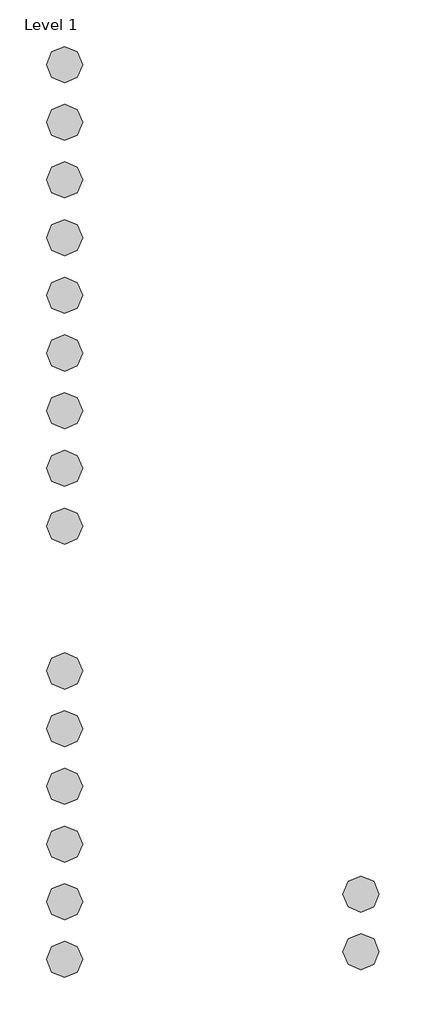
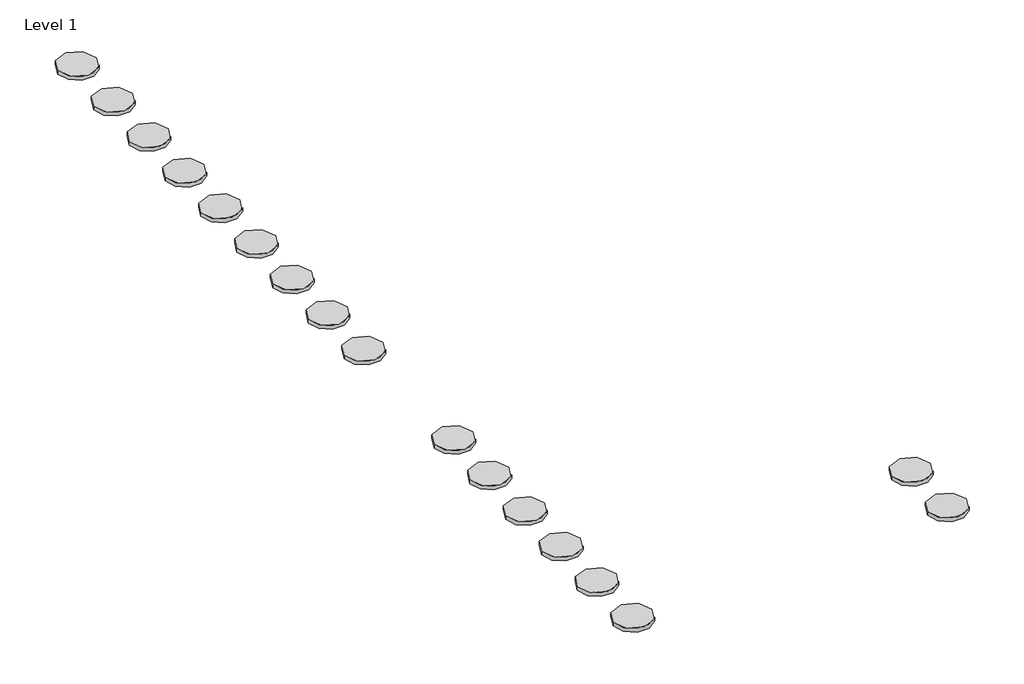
# One storey, incomplete: 17 proxies.
"""IFC4 building model written with IfcOpenShell, lengths in millimetres."""

from ifc_helpers import new_model, si_unit, origin, place, context, project, spatial, transform, mapped, element, save
from components import materialmodel_materialmodel_ac00f72a

model = new_model("IFC4")

# Units and contexts
model_context = context("Model", 3, world=origin())
ifc_project = project(units=[si_unit("LENGTHUNIT", "METRE", prefix="MILLI")], contexts=[model_context])

# Site, building, storey
site = spatial("IfcSite", under=ifc_project)
building = spatial("IfcBuilding", under=site)
storey = spatial("IfcBuildingStorey", under=building, Name="Level 1", Elevation=0.0)

# Proxies
placement = place(None, origin())
materialmodel_materialmodel_shape = materialmodel_materialmodel_ac00f72a(model_context)
element("IfcBuildingElementProxy", 1, Name="MaterialModel : MaterialModel", ObjectType="MaterialModel : MaterialModel", at=placement, inside=storey, context=model_context, shape_type="MappedRepresentation", body=[
    mapped(materialmodel_materialmodel_shape, transform((-8678.692475, 1792.2527312, 0.0), x_axis=(1.0, 0.0, 0.0), y_axis=(0.0, 1.0, 0.0), z_axis=(0.0, 0.0, 1.0))),
])
element("IfcBuildingElementProxy", 2, Name="MaterialModel : MaterialModel", ObjectType="MaterialModel : MaterialModel", at=placement, inside=storey, context=model_context, shape_type="MappedRepresentation", body=[
    mapped(materialmodel_materialmodel_shape, transform((-8678.692475, 1472.2527312, 0.0), x_axis=(1.0, 0.0, 0.0), y_axis=(0.0, 1.0, 0.0), z_axis=(0.0, 0.0, 1.0))),
])
element("IfcBuildingElementProxy", 3, Name="MaterialModel : MaterialModel", ObjectType="MaterialModel : MaterialModel", at=placement, inside=storey, context=model_context, shape_type="MappedRepresentation", body=[
    mapped(materialmodel_materialmodel_shape, transform((-10325.5786717, 6393.3237981, 0.0), x_axis=(1.0, 0.0, 0.0), y_axis=(0.0, 1.0, 0.0), z_axis=(0.0, 0.0, 1.0))),
])
element("IfcBuildingElementProxy", 4, Name="MaterialModel : MaterialModel", ObjectType="MaterialModel : MaterialModel", at=placement, inside=storey, context=model_context, shape_type="MappedRepresentation", body=[
    mapped(materialmodel_materialmodel_shape, transform((-10325.5786717, 6073.3237981, 0.0), x_axis=(1.0, 0.0, 0.0), y_axis=(0.0, 1.0, 0.0), z_axis=(0.0, 0.0, 1.0))),
])
element("IfcBuildingElementProxy", 5, Name="MaterialModel : MaterialModel", ObjectType="MaterialModel : MaterialModel", at=placement, inside=storey, context=model_context, shape_type="MappedRepresentation", body=[
    mapped(materialmodel_materialmodel_shape, transform((-10325.5786717, 5753.3237981, 0.0), x_axis=(1.0, 0.0, 0.0), y_axis=(0.0, 1.0, 0.0), z_axis=(0.0, 0.0, 1.0))),
])
element("IfcBuildingElementProxy", 6, Name="MaterialModel : MaterialModel", ObjectType="MaterialModel : MaterialModel", at=placement, inside=storey, context=model_context, shape_type="MappedRepresentation", body=[
    mapped(materialmodel_materialmodel_shape, transform((-10325.5786717, 5433.3237981, 0.0), x_axis=(1.0, 0.0, 0.0), y_axis=(0.0, 1.0, 0.0), z_axis=(0.0, 0.0, 1.0))),
])
element("IfcBuildingElementProxy", 7, Name="MaterialModel : MaterialModel", ObjectType="MaterialModel : MaterialModel", at=placement, inside=storey, context=model_context, shape_type="MappedRepresentation", body=[
    mapped(materialmodel_materialmodel_shape, transform((-10325.5786717, 5113.3237981, 0.0), x_axis=(1.0, 0.0, 0.0), y_axis=(0.0, 1.0, 0.0), z_axis=(0.0, 0.0, 1.0))),
])
element("IfcBuildingElementProxy", 8, Name="MaterialModel : MaterialModel", ObjectType="MaterialModel : MaterialModel", at=placement, inside=storey, context=model_context, shape_type="MappedRepresentation", body=[
    mapped(materialmodel_materialmodel_shape, transform((-10325.5786717, 4793.3237981, 0.0), x_axis=(1.0, 0.0, 0.0), y_axis=(0.0, 1.0, 0.0), z_axis=(0.0, 0.0, 1.0))),
])
element("IfcBuildingElementProxy", 9, Name="MaterialModel : MaterialModel", ObjectType="MaterialModel : MaterialModel", at=placement, inside=storey, context=model_context, shape_type="MappedRepresentation", body=[
    mapped(materialmodel_materialmodel_shape, transform((-10325.5786717, 2709.5894519, 0.0), x_axis=(1.0, 0.0, 0.0), y_axis=(0.0, 1.0, 0.0), z_axis=(0.0, 0.0, 1.0))),
])
element("IfcBuildingElementProxy", 10, Name="MaterialModel : MaterialModel", ObjectType="MaterialModel : MaterialModel", at=placement, inside=storey, context=model_context, shape_type="MappedRepresentation", body=[
    mapped(materialmodel_materialmodel_shape, transform((-10325.5786717, 2389.5894519, 0.0), x_axis=(1.0, 0.0, 0.0), y_axis=(0.0, 1.0, 0.0), z_axis=(0.0, 0.0, 1.0))),
])
element("IfcBuildingElementProxy", 11, Name="MaterialModel : MaterialModel", ObjectType="MaterialModel : MaterialModel", at=placement, inside=storey, context=model_context, shape_type="MappedRepresentation", body=[
    mapped(materialmodel_materialmodel_shape, transform((-10325.5786717, 1749.5894519, 0.0), x_axis=(1.0, 0.0, 0.0), y_axis=(0.0, 1.0, 0.0), z_axis=(0.0, 0.0, 1.0))),
])
element("IfcBuildingElementProxy", 12, Name="MaterialModel : MaterialModel", ObjectType="MaterialModel : MaterialModel", at=placement, inside=storey, context=model_context, shape_type="MappedRepresentation", body=[
    mapped(materialmodel_materialmodel_shape, transform((-10325.5786717, 2069.5894519, 0.0), x_axis=(1.0, 0.0, 0.0), y_axis=(0.0, 1.0, 0.0), z_axis=(0.0, 0.0, 1.0))),
])
element("IfcBuildingElementProxy", 13, Name="MaterialModel : MaterialModel", ObjectType="MaterialModel : MaterialModel", at=placement, inside=storey, context=model_context, shape_type="MappedRepresentation", body=[
    mapped(materialmodel_materialmodel_shape, transform((-10325.5786717, 1429.5894519, 0.0), x_axis=(1.0, 0.0, 0.0), y_axis=(0.0, 1.0, 0.0), z_axis=(0.0, 0.0, 1.0))),
])
element("IfcBuildingElementProxy", 14, Name="MaterialModel : MaterialModel", ObjectType="MaterialModel : MaterialModel", at=placement, inside=storey, context=model_context, shape_type="MappedRepresentation", body=[
    mapped(materialmodel_materialmodel_shape, transform((-10325.5786717, 3029.5894519, 0.0), x_axis=(1.0, 0.0, 0.0), y_axis=(0.0, 1.0, 0.0), z_axis=(0.0, 0.0, 1.0))),
])
element("IfcBuildingElementProxy", 15, Name="MaterialModel : MaterialModel", ObjectType="MaterialModel : MaterialModel", at=placement, inside=storey, context=model_context, shape_type="MappedRepresentation", body=[
    mapped(materialmodel_materialmodel_shape, transform((-10325.5786717, 4473.3237981, 0.0), x_axis=(1.0, 0.0, 0.0), y_axis=(0.0, 1.0, 0.0), z_axis=(0.0, 0.0, 1.0))),
])
element("IfcBuildingElementProxy", 16, Name="MaterialModel : MaterialModel", ObjectType="MaterialModel : MaterialModel", at=placement, inside=storey, context=model_context, shape_type="MappedRepresentation", body=[
    mapped(materialmodel_materialmodel_shape, transform((-10325.5786717, 4153.3237981, 0.0), x_axis=(1.0, 0.0, 0.0), y_axis=(0.0, 1.0, 0.0), z_axis=(0.0, 0.0, 1.0))),
])
element("IfcBuildingElementProxy", 17, Name="MaterialModel : MaterialModel", ObjectType="MaterialModel : MaterialModel", at=placement, inside=storey, context=model_context, shape_type="MappedRepresentation", body=[
    mapped(materialmodel_materialmodel_shape, transform((-10325.5786717, 3833.3237981, 0.0), x_axis=(1.0, 0.0, 0.0), y_axis=(0.0, 1.0, 0.0), z_axis=(0.0, 0.0, 1.0))),
])

save(model, "model.ifc")
